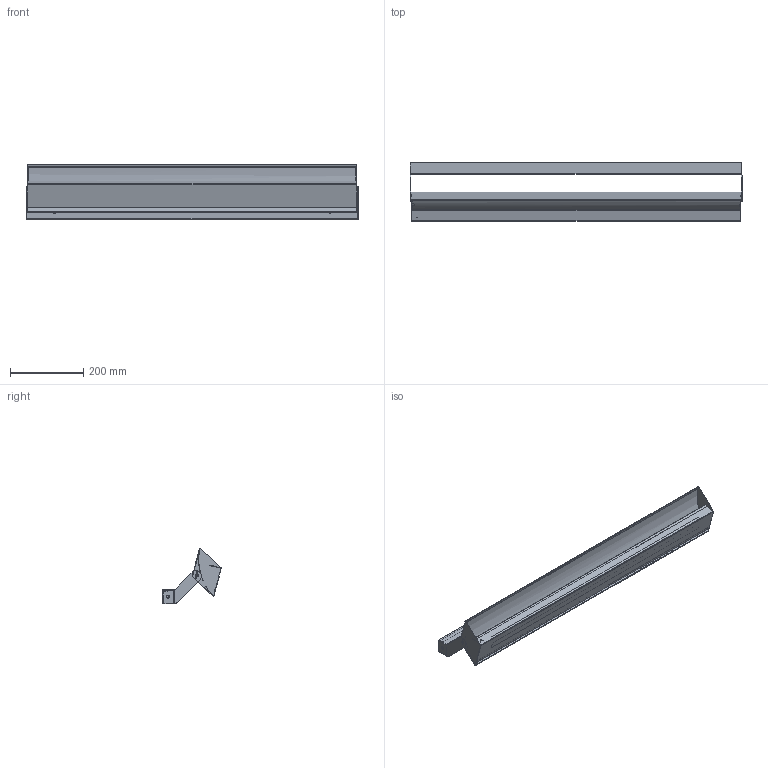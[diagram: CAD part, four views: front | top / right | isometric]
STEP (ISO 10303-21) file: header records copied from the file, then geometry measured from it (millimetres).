
FILE_DESCRIPTION(/* description */ (''),/* implementation_level */ '2;1');
FILE_NAME(/* name */ '503Z0LD90-0XXXX.stp',/* time_stamp */ '2025-06-10T11:36:42+02:00',/* author */ ('marco.prandina'),/* organization */ (''),/* preprocessor_version */ 'ST-DEVELOPER v20',/* originating_system */ 'Autodesk Inventor 2025',/* authorisation */ '');
FILE_SCHEMA (('AUTOMOTIVE_DESIGN { 1 0 10303 214 3 1 1 }'));
Products named in the file (30): 503Z0LD90-0CEPD; 503C032; 503C0032_001; X0071-025; 503C006-C; 503C006_001-C; 503C006_002; 503C006_003; X0057-008; 503C007; 503C007_001; 503C006_003_1; 503C007_002; 503C009-C; 503C009_001-C; 503C009_002-C; 503C009_003; 503C009_004; 503C009_007-C; 503C010-C; 503C025; 503C012-C; N218L878+N219L878; N218-C; N219-C; C025-C; Z027; SF00492A01-A; SF00492A01-B; K031-02
Assembly tree (33 placements, depth 4):
  503Z0LD90-0CEPD
    503C032
      503C0032_001
      X0071-025  x2
    503C006-C
      503C006_001-C
      X0057-008  x3
      503C006_002
      503C006_003
    503C007
      503C007_001
      503C006_003_1
      503C007_002
    503C009-C
      503C009_001-C
      503C009_002-C
      503C009_003
      503C009_004
      503C009_007-C
    503C010-C
    503C025
    503C012-C
      N218L878+N219L878
        N218-C
        N219-C
      C025-C
      Z027  x2
      SF00492A01-A
      SF00492A01-B
      K031-02
Bounding box: 907 x 159.99 x 150.99 mm (x, y, z)
Volume: 665317.4 mm3; surface area: 1270286 mm2
Topology: 239 solids, 239 shells, 2982 faces, 6617 edges, 4177 vertices
Faces by surface type: plane 1943, bspline 526, cylinder 433, cone 32, sphere 28, torus 20
Full cylindrical faces by diameter (mm): 0.7 x3, 2.2 x2, 2.5 x2, 3 x3, 3.2 x1, 3.242 x2, 3.5 x3, 4 x3, 4.5 x5, 5 x12, 5.5 x2, 6.11 x2, 7.11 x2, 7.2 x2, 8 x2, 8.2 x3, 15 x5
Entity records: 99512 total; most frequent: CARTESIAN_POINT 33434, ORIENTED_EDGE 13018, DIRECTION 11491, EDGE_CURVE 6509, LINE 4731, VECTOR 4731, VERTEX_POINT 4114, AXIS2_PLACEMENT_3D 3380
